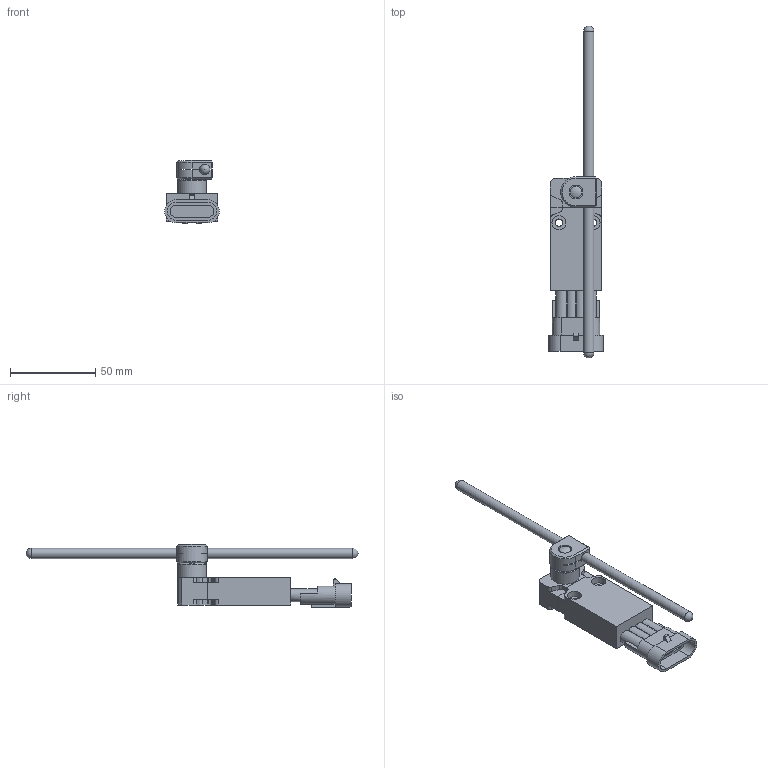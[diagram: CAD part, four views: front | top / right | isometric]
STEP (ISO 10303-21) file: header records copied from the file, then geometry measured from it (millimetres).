
FILE_DESCRIPTION(/* description */ (''),/* implementation_level */ '2;1');
FILE_NAME(/* name */ 'C:\Users\servizio.tecnico\Desktop\CADENAS\3D\EP1_STP\STP_EP1_G73A.stp',/* time_stamp */ '2017-09-04T10:41:00+02:00',/* author */ ('servizio.tecnico'),/* organization */ (''),/* preprocessor_version */ 'ST-DEVELOPER v16.1',/* originating_system */ 'Autodesk Inventor 2016',/* authorisation */ '');
FILE_SCHEMA (('AUTOMOTIVE_DESIGN { 1 0 10303 214 3 1 1 }'));
Length unit declared in the file: millimetre
Products named in the file (3): Product; EP1G73-A; BASE ASSI 
Assembly tree (2 placements, depth 3):
  BASE ASSI 
    EP1G73-A
      Product
Bounding box: 32 x 195 x 37.08 mm (x, y, z)
Volume: 45595.3 mm3; surface area: 19197 mm2
Topology: 4 solids, 4 shells, 183 faces, 480 edges, 314 vertices
Faces by surface type: plane 122, cylinder 55, sphere 3, cone 2, torus 1
Full cylindrical faces by diameter (mm): 4.4 x2, 6 x1, 7 x1, 8.2 x5, 11 x1, 17 x1
Entity records: 5677 total; most frequent: DIRECTION 958, CARTESIAN_POINT 956, ORIENTED_EDGE 920, EDGE_CURVE 460, LINE 338, VECTOR 338, AXIS2_PLACEMENT_3D 310, VERTEX_POINT 308
